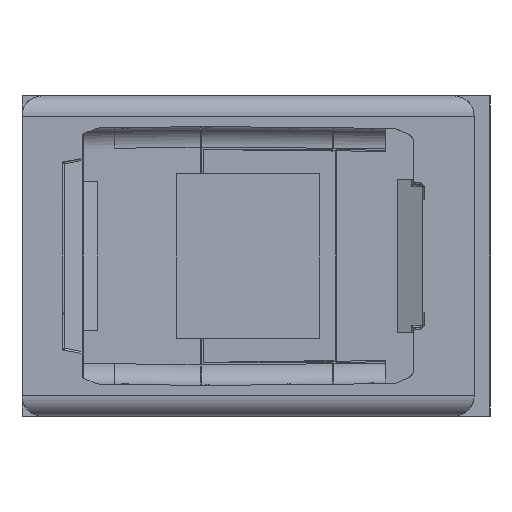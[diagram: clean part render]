
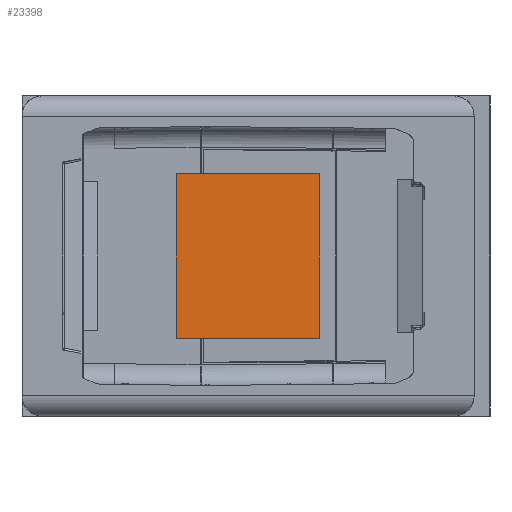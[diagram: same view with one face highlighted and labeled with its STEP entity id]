
A CAD part, left-side view. The second image highlights one B-rep face of the part: STEP entity #23398.
In plain terms, the highlighted planar face has unit normal (-1, 0.014, 0) as drawn and (-1, 0, -0.014) by its records, which use the part's own axes.
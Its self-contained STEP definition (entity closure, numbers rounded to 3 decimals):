
#6627 = PLANE('',#6628);
#6628 = AXIS2_PLACEMENT_3D('',#6629,#6630,#6631);
#6629 = CARTESIAN_POINT('',(-125.385,8.,-8.95));
#6630 = DIRECTION('',(-0.,1.,0.));
#6631 = DIRECTION('',(0.,0.,1.));
#15231 = PLANE('',#15232);
#15232 = AXIS2_PLACEMENT_3D('',#15233,#15234,#15235);
#15233 = CARTESIAN_POINT('',(-125.385,-8.,-8.95));
#15234 = DIRECTION('',(0.,0.,1.));
#15235 = DIRECTION('',(1.,0.,-0.));
#15258 = PLANE('',#15259);
#15259 = AXIS2_PLACEMENT_3D('',#15260,#15261,#15262);
#15260 = CARTESIAN_POINT('',(-125.385,-8.,-8.95));
#15261 = DIRECTION('',(-0.,1.,0.));
#15262 = DIRECTION('',(0.,0.,1.));
#15542 = VERTEX_POINT('',#15543);
#15543 = CARTESIAN_POINT('',(-124.679,8.,-8.95));
#15609 = VERTEX_POINT('',#15610);
#15610 = CARTESIAN_POINT('',(-124.875,8.,5.05));
#15624 = PLANE('',#15625);
#15625 = AXIS2_PLACEMENT_3D('',#15626,#15627,#15628);
#15626 = CARTESIAN_POINT('',(-125.385,-8.,5.05));
#15627 = DIRECTION('',(0.,0.,1.));
#15628 = DIRECTION('',(1.,0.,-0.));
#15636 = EDGE_CURVE('',#15609,#15542,#15637,.T.);
#15637 = SURFACE_CURVE('',#15638,(#15642,#15648),.PCURVE_S1.);
#15638 = LINE('',#15639,#15640);
#15639 = CARTESIAN_POINT('',(-124.615,8.,-13.533));
#15640 = VECTOR('',#15641,1.);
#15641 = DIRECTION('',(0.014,0.,-1.));
#15642 = PCURVE('',#6627,#15643);
#15643 = DEFINITIONAL_REPRESENTATION('',(#15644),#15647);
#15644 = B_SPLINE_CURVE_WITH_KNOTS('',1,(#15645,#15646),.UNSPECIFIED.,
  .F.,.F.,(2,2),(-18.584,-4.583),
  .PIECEWISE_BEZIER_KNOTS.);
#15645 = CARTESIAN_POINT('',(14.,0.51));
#15646 = CARTESIAN_POINT('',(0.,0.706));
#15647 = ( GEOMETRIC_REPRESENTATION_CONTEXT(2) 
PARAMETRIC_REPRESENTATION_CONTEXT() REPRESENTATION_CONTEXT('2D SPACE',''
  ) );
#15648 = PCURVE('',#15649,#15654);
#15649 = PLANE('',#15650);
#15650 = AXIS2_PLACEMENT_3D('',#15651,#15652,#15653);
#15651 = CARTESIAN_POINT('',(-124.551,-10.25,-18.125));
#15652 = DIRECTION('',(1.,0.,0.014));
#15653 = DIRECTION('',(-0.014,0.,1.));
#15654 = DEFINITIONAL_REPRESENTATION('',(#15655),#15658);
#15655 = B_SPLINE_CURVE_WITH_KNOTS('',1,(#15656,#15657),.UNSPECIFIED.,
  .F.,.F.,(2,2),(-18.584,-4.583),
  .PIECEWISE_BEZIER_KNOTS.);
#15656 = CARTESIAN_POINT('',(23.177,-18.25));
#15657 = CARTESIAN_POINT('',(9.176,-18.25));
#15658 = ( GEOMETRIC_REPRESENTATION_CONTEXT(2) 
PARAMETRIC_REPRESENTATION_CONTEXT() REPRESENTATION_CONTEXT('2D SPACE',''
  ) );
#23098 = VERTEX_POINT('',#23099);
#23099 = CARTESIAN_POINT('',(-124.679,-8.,-8.95));
#23120 = EDGE_CURVE('',#23098,#15542,#23121,.T.);
#23121 = SURFACE_CURVE('',#23122,(#23126,#23132),.PCURVE_S1.);
#23122 = LINE('',#23123,#23124);
#23123 = CARTESIAN_POINT('',(-124.679,-9.125,-8.95));
#23124 = VECTOR('',#23125,1.);
#23125 = DIRECTION('',(0.,1.,0.));
#23126 = PCURVE('',#15231,#23127);
#23127 = DEFINITIONAL_REPRESENTATION('',(#23128),#23131);
#23128 = B_SPLINE_CURVE_WITH_KNOTS('',1,(#23129,#23130),.UNSPECIFIED.,
  .F.,.F.,(2,2),(1.125,17.125),
  .PIECEWISE_BEZIER_KNOTS.);
#23129 = CARTESIAN_POINT('',(0.706,0.));
#23130 = CARTESIAN_POINT('',(0.706,16.));
#23131 = ( GEOMETRIC_REPRESENTATION_CONTEXT(2) 
PARAMETRIC_REPRESENTATION_CONTEXT() REPRESENTATION_CONTEXT('2D SPACE',''
  ) );
#23132 = PCURVE('',#15649,#23133);
#23133 = DEFINITIONAL_REPRESENTATION('',(#23134),#23137);
#23134 = B_SPLINE_CURVE_WITH_KNOTS('',1,(#23135,#23136),.UNSPECIFIED.,
  .F.,.F.,(2,2),(1.125,17.125),
  .PIECEWISE_BEZIER_KNOTS.);
#23135 = CARTESIAN_POINT('',(9.176,-2.25));
#23136 = CARTESIAN_POINT('',(9.176,-18.25));
#23137 = ( GEOMETRIC_REPRESENTATION_CONTEXT(2) 
PARAMETRIC_REPRESENTATION_CONTEXT() REPRESENTATION_CONTEXT('2D SPACE',''
  ) );
#23233 = VERTEX_POINT('',#23234);
#23234 = CARTESIAN_POINT('',(-124.875,-8.,5.05));
#23255 = EDGE_CURVE('',#23233,#23098,#23256,.T.);
#23256 = SURFACE_CURVE('',#23257,(#23261,#23267),.PCURVE_S1.);
#23257 = LINE('',#23258,#23259);
#23258 = CARTESIAN_POINT('',(-124.615,-8.,-13.533));
#23259 = VECTOR('',#23260,1.);
#23260 = DIRECTION('',(0.014,0.,-1.));
#23261 = PCURVE('',#15258,#23262);
#23262 = DEFINITIONAL_REPRESENTATION('',(#23263),#23266);
#23263 = B_SPLINE_CURVE_WITH_KNOTS('',1,(#23264,#23265),.UNSPECIFIED.,
  .F.,.F.,(2,2),(-18.584,-4.583),
  .PIECEWISE_BEZIER_KNOTS.);
#23264 = CARTESIAN_POINT('',(14.,0.51));
#23265 = CARTESIAN_POINT('',(0.,0.706));
#23266 = ( GEOMETRIC_REPRESENTATION_CONTEXT(2) 
PARAMETRIC_REPRESENTATION_CONTEXT() REPRESENTATION_CONTEXT('2D SPACE',''
  ) );
#23267 = PCURVE('',#15649,#23268);
#23268 = DEFINITIONAL_REPRESENTATION('',(#23269),#23272);
#23269 = B_SPLINE_CURVE_WITH_KNOTS('',1,(#23270,#23271),.UNSPECIFIED.,
  .F.,.F.,(2,2),(-18.584,-4.583),
  .PIECEWISE_BEZIER_KNOTS.);
#23270 = CARTESIAN_POINT('',(23.177,-2.25));
#23271 = CARTESIAN_POINT('',(9.176,-2.25));
#23272 = ( GEOMETRIC_REPRESENTATION_CONTEXT(2) 
PARAMETRIC_REPRESENTATION_CONTEXT() REPRESENTATION_CONTEXT('2D SPACE',''
  ) );
#23398 = ADVANCED_FACE('',(#23399),#15649,.F.);
#23399 = FACE_BOUND('',#23400,.F.);
#23400 = EDGE_LOOP('',(#23401,#23402,#23421,#23422));
#23401 = ORIENTED_EDGE('',*,*,#15636,.F.);
#23402 = ORIENTED_EDGE('',*,*,#23403,.F.);
#23403 = EDGE_CURVE('',#23233,#15609,#23404,.T.);
#23404 = SURFACE_CURVE('',#23405,(#23409,#23415),.PCURVE_S1.);
#23405 = LINE('',#23406,#23407);
#23406 = CARTESIAN_POINT('',(-124.875,-9.125,5.05));
#23407 = VECTOR('',#23408,1.);
#23408 = DIRECTION('',(0.,1.,0.));
#23409 = PCURVE('',#15649,#23410);
#23410 = DEFINITIONAL_REPRESENTATION('',(#23411),#23414);
#23411 = B_SPLINE_CURVE_WITH_KNOTS('',1,(#23412,#23413),.UNSPECIFIED.,
  .F.,.F.,(2,2),(1.125,17.125),
  .PIECEWISE_BEZIER_KNOTS.);
#23412 = CARTESIAN_POINT('',(23.177,-2.25));
#23413 = CARTESIAN_POINT('',(23.177,-18.25));
#23414 = ( GEOMETRIC_REPRESENTATION_CONTEXT(2) 
PARAMETRIC_REPRESENTATION_CONTEXT() REPRESENTATION_CONTEXT('2D SPACE',''
  ) );
#23415 = PCURVE('',#15624,#23416);
#23416 = DEFINITIONAL_REPRESENTATION('',(#23417),#23420);
#23417 = B_SPLINE_CURVE_WITH_KNOTS('',1,(#23418,#23419),.UNSPECIFIED.,
  .F.,.F.,(2,2),(1.125,17.125),
  .PIECEWISE_BEZIER_KNOTS.);
#23418 = CARTESIAN_POINT('',(0.51,0.));
#23419 = CARTESIAN_POINT('',(0.51,16.));
#23420 = ( GEOMETRIC_REPRESENTATION_CONTEXT(2) 
PARAMETRIC_REPRESENTATION_CONTEXT() REPRESENTATION_CONTEXT('2D SPACE',''
  ) );
#23421 = ORIENTED_EDGE('',*,*,#23255,.T.);
#23422 = ORIENTED_EDGE('',*,*,#23120,.T.);
